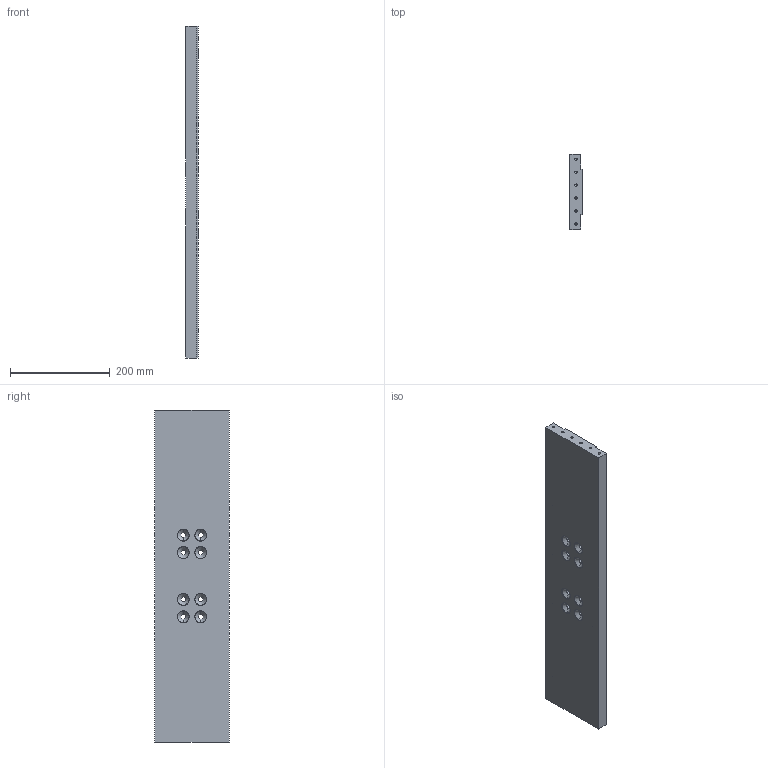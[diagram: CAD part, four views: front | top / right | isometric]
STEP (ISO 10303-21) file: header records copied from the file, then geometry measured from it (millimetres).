
FILE_DESCRIPTION (( 'STEP AP214' ), '1' );
FILE_NAME ('Pos.9 Portalstrebe.STEP', '2017-03-12T09:22:20', ( 'C.Loibl@hotmail.com' ), ( '' ), 'SwSTEP 2.0', 'SolidWorks 2015', '' );
FILE_SCHEMA (( 'AUTOMOTIVE_DESIGN' ));
Length unit declared in the file: millimetre
Products named in the file (1): Pos.9 Portalstrebe
Bounding box: 25 x 150 x 666 mm (x, y, z)
Volume: 2333523.6 mm3; surface area: 258576.9 mm2
Topology: 1 solids, 1 shells, 232 faces, 564 edges, 304 vertices
Faces by surface type: cylinder 116, cone 96, plane 20
Entity records: 7330 total; most frequent: DIRECTION 1198, CARTESIAN_POINT 1021, ORIENTED_EDGE 968, EDGE_CURVE 484, AXIS2_PLACEMENT_3D 481, VERTEX_POINT 304, EDGE_LOOP 298, CIRCLE 248
